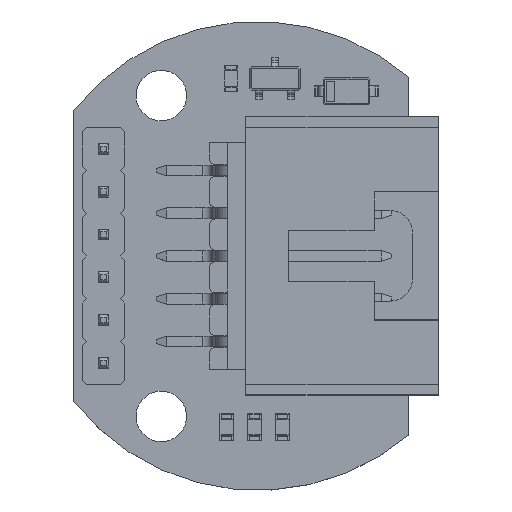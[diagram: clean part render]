
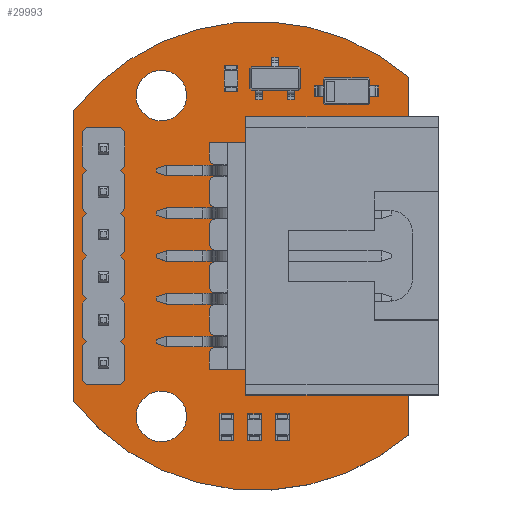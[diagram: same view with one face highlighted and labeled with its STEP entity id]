
A CAD part, top view. The second image highlights one B-rep face of the part: STEP entity #29993.
In plain terms, the highlighted planar face has unit normal (0, 0, 1).
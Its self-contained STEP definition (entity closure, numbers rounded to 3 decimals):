
#29768 = VERTEX_POINT('',#29769);
#29769 = CARTESIAN_POINT('',(219.639,-114.939,1.6));
#29775 = EDGE_CURVE('',#29768,#29776,#29778,.T.);
#29776 = VERTEX_POINT('',#29777);
#29777 = CARTESIAN_POINT('',(239.543,-112.942,1.6));
#29778 = CIRCLE('',#29779,13.91);
#29779 = AXIS2_PLACEMENT_3D('',#29780,#29781,#29782);
#29780 = CARTESIAN_POINT('',(230.556,-123.558,1.6));
#29781 = DIRECTION('',(0.,0.,-1.));
#29782 = DIRECTION('',(-0.785,0.62,0.));
#29810 = VERTEX_POINT('',#29811);
#29811 = CARTESIAN_POINT('',(219.642,-132.213,1.6));
#29817 = EDGE_CURVE('',#29810,#29768,#29818,.T.);
#29818 = LINE('',#29819,#29820);
#29819 = CARTESIAN_POINT('',(219.642,-132.213,1.6));
#29820 = VECTOR('',#29821,1.);
#29821 = DIRECTION('',(0.,1.,0.));
#29839 = EDGE_CURVE('',#29776,#29840,#29842,.T.);
#29840 = VERTEX_POINT('',#29841);
#29841 = CARTESIAN_POINT('',(239.543,-134.2,1.6));
#29842 = LINE('',#29843,#29844);
#29843 = CARTESIAN_POINT('',(239.543,-112.942,1.6));
#29844 = VECTOR('',#29845,1.);
#29845 = DIRECTION('',(0.,-1.,0.));
#29993 = ADVANCED_FACE('',(#29994,#30006,#30017,#30028,#30039,#30050,
    #30061,#30072,#30083,#30094,#30105),#30116,.T.);
#29994 = FACE_BOUND('',#29995,.T.);
#29995 = EDGE_LOOP('',(#29996,#29997,#29998,#30005));
#29996 = ORIENTED_EDGE('',*,*,#29775,.F.);
#29997 = ORIENTED_EDGE('',*,*,#29817,.F.);
#29998 = ORIENTED_EDGE('',*,*,#29999,.F.);
#29999 = EDGE_CURVE('',#29840,#29810,#30000,.T.);
#30000 = CIRCLE('',#30001,13.929);
#30001 = AXIS2_PLACEMENT_3D('',#30002,#30003,#30004);
#30002 = CARTESIAN_POINT('',(230.556,-123.558,1.6));
#30003 = DIRECTION('',(-0.,0.,-1.));
#30004 = DIRECTION('',(0.645,-0.764,-0.));
#30005 = ORIENTED_EDGE('',*,*,#29839,.F.);
#30006 = FACE_BOUND('',#30007,.T.);
#30007 = EDGE_LOOP('',(#30008));
#30008 = ORIENTED_EDGE('',*,*,#30009,.T.);
#30009 = EDGE_CURVE('',#30010,#30010,#30012,.T.);
#30010 = VERTEX_POINT('',#30011);
#30011 = CARTESIAN_POINT('',(224.841,-134.596,1.6));
#30012 = CIRCLE('',#30013,1.5);
#30013 = AXIS2_PLACEMENT_3D('',#30014,#30015,#30016);
#30014 = CARTESIAN_POINT('',(224.841,-133.096,1.6));
#30015 = DIRECTION('',(-0.,0.,-1.));
#30016 = DIRECTION('',(-0.,-1.,0.));
#30017 = FACE_BOUND('',#30018,.T.);
#30018 = EDGE_LOOP('',(#30019));
#30019 = ORIENTED_EDGE('',*,*,#30020,.T.);
#30020 = EDGE_CURVE('',#30021,#30021,#30023,.T.);
#30021 = VERTEX_POINT('',#30022);
#30022 = CARTESIAN_POINT('',(221.412,-130.421,1.6));
#30023 = CIRCLE('',#30024,0.5);
#30024 = AXIS2_PLACEMENT_3D('',#30025,#30026,#30027);
#30025 = CARTESIAN_POINT('',(221.412,-129.921,1.6));
#30026 = DIRECTION('',(-0.,0.,-1.));
#30027 = DIRECTION('',(-0.,-1.,0.));
#30028 = FACE_BOUND('',#30029,.T.);
#30029 = EDGE_LOOP('',(#30030));
#30030 = ORIENTED_EDGE('',*,*,#30031,.T.);
#30031 = EDGE_CURVE('',#30032,#30032,#30034,.T.);
#30032 = VERTEX_POINT('',#30033);
#30033 = CARTESIAN_POINT('',(221.412,-127.881,1.6));
#30034 = CIRCLE('',#30035,0.5);
#30035 = AXIS2_PLACEMENT_3D('',#30036,#30037,#30038);
#30036 = CARTESIAN_POINT('',(221.412,-127.381,1.6));
#30037 = DIRECTION('',(-0.,0.,-1.));
#30038 = DIRECTION('',(-0.,-1.,0.));
#30039 = FACE_BOUND('',#30040,.T.);
#30040 = EDGE_LOOP('',(#30041));
#30041 = ORIENTED_EDGE('',*,*,#30042,.T.);
#30042 = EDGE_CURVE('',#30043,#30043,#30045,.T.);
#30043 = VERTEX_POINT('',#30044);
#30044 = CARTESIAN_POINT('',(221.412,-125.341,1.6));
#30045 = CIRCLE('',#30046,0.5);
#30046 = AXIS2_PLACEMENT_3D('',#30047,#30048,#30049);
#30047 = CARTESIAN_POINT('',(221.412,-124.841,1.6));
#30048 = DIRECTION('',(-0.,0.,-1.));
#30049 = DIRECTION('',(-0.,-1.,0.));
#30050 = FACE_BOUND('',#30051,.T.);
#30051 = EDGE_LOOP('',(#30052));
#30052 = ORIENTED_EDGE('',*,*,#30053,.T.);
#30053 = EDGE_CURVE('',#30054,#30054,#30056,.T.);
#30054 = VERTEX_POINT('',#30055);
#30055 = CARTESIAN_POINT('',(237.178,-131.751,1.6));
#30056 = CIRCLE('',#30057,1.7);
#30057 = AXIS2_PLACEMENT_3D('',#30058,#30059,#30060);
#30058 = CARTESIAN_POINT('',(237.178,-130.051,1.6));
#30059 = DIRECTION('',(-0.,0.,-1.));
#30060 = DIRECTION('',(-0.,-1.,0.));
#30061 = FACE_BOUND('',#30062,.T.);
#30062 = EDGE_LOOP('',(#30063));
#30063 = ORIENTED_EDGE('',*,*,#30064,.T.);
#30064 = EDGE_CURVE('',#30065,#30065,#30067,.T.);
#30065 = VERTEX_POINT('',#30066);
#30066 = CARTESIAN_POINT('',(221.412,-122.801,1.6));
#30067 = CIRCLE('',#30068,0.5);
#30068 = AXIS2_PLACEMENT_3D('',#30069,#30070,#30071);
#30069 = CARTESIAN_POINT('',(221.412,-122.301,1.6));
#30070 = DIRECTION('',(-0.,0.,-1.));
#30071 = DIRECTION('',(-0.,-1.,0.));
#30072 = FACE_BOUND('',#30073,.T.);
#30073 = EDGE_LOOP('',(#30074));
#30074 = ORIENTED_EDGE('',*,*,#30075,.T.);
#30075 = EDGE_CURVE('',#30076,#30076,#30078,.T.);
#30076 = VERTEX_POINT('',#30077);
#30077 = CARTESIAN_POINT('',(221.412,-120.261,1.6));
#30078 = CIRCLE('',#30079,0.5);
#30079 = AXIS2_PLACEMENT_3D('',#30080,#30081,#30082);
#30080 = CARTESIAN_POINT('',(221.412,-119.761,1.6));
#30081 = DIRECTION('',(-0.,0.,-1.));
#30082 = DIRECTION('',(-0.,-1.,0.));
#30083 = FACE_BOUND('',#30084,.T.);
#30084 = EDGE_LOOP('',(#30085));
#30085 = ORIENTED_EDGE('',*,*,#30086,.T.);
#30086 = EDGE_CURVE('',#30087,#30087,#30089,.T.);
#30087 = VERTEX_POINT('',#30088);
#30088 = CARTESIAN_POINT('',(221.412,-117.721,1.6));
#30089 = CIRCLE('',#30090,0.5);
#30090 = AXIS2_PLACEMENT_3D('',#30091,#30092,#30093);
#30091 = CARTESIAN_POINT('',(221.412,-117.221,1.6));
#30092 = DIRECTION('',(-0.,0.,-1.));
#30093 = DIRECTION('',(-0.,-1.,0.));
#30094 = FACE_BOUND('',#30095,.T.);
#30095 = EDGE_LOOP('',(#30096));
#30096 = ORIENTED_EDGE('',*,*,#30097,.T.);
#30097 = EDGE_CURVE('',#30098,#30098,#30100,.T.);
#30098 = VERTEX_POINT('',#30099);
#30099 = CARTESIAN_POINT('',(224.841,-115.546,1.6));
#30100 = CIRCLE('',#30101,1.5);
#30101 = AXIS2_PLACEMENT_3D('',#30102,#30103,#30104);
#30102 = CARTESIAN_POINT('',(224.841,-114.046,1.6));
#30103 = DIRECTION('',(-0.,0.,-1.));
#30104 = DIRECTION('',(-0.,-1.,0.));
#30105 = FACE_BOUND('',#30106,.T.);
#30106 = EDGE_LOOP('',(#30107));
#30107 = ORIENTED_EDGE('',*,*,#30108,.T.);
#30108 = EDGE_CURVE('',#30109,#30109,#30111,.T.);
#30109 = VERTEX_POINT('',#30110);
#30110 = CARTESIAN_POINT('',(237.178,-118.791,1.6));
#30111 = CIRCLE('',#30112,1.7);
#30112 = AXIS2_PLACEMENT_3D('',#30113,#30114,#30115);
#30113 = CARTESIAN_POINT('',(237.178,-117.091,1.6));
#30114 = DIRECTION('',(-0.,0.,-1.));
#30115 = DIRECTION('',(-0.,-1.,0.));
#30116 = PLANE('',#30117);
#30117 = AXIS2_PLACEMENT_3D('',#30118,#30119,#30120);
#30118 = CARTESIAN_POINT('',(0.,0.,1.6));
#30119 = DIRECTION('',(0.,0.,1.));
#30120 = DIRECTION('',(1.,0.,-0.));
